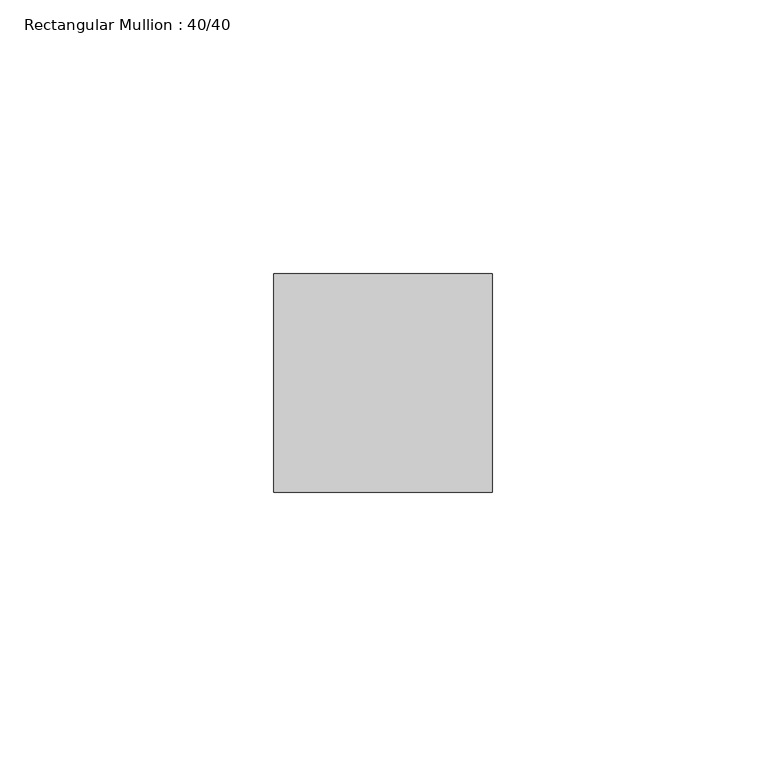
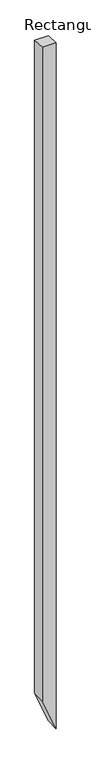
"""IFC4 building model written with IfcOpenShell, lengths in millimetres: member geometry, Rectangular Mullion : 40/40."""

from ifc_helpers import new_model, si_unit, origin, place, context, project, spatial, faceted_brep, source, transform, mapped, element, save


def rectangular_mullion_40_40_db6aeea2(model_context):
    return source(origin(), model_context, "Body", "Brep", [
        faceted_brep([(-20.0, 20.0, -1.3985362), (20.0, 20.0, -1.3985362), (20.0, 20.0, -2122.9057265), (-20.0, 20.0, -2023.6016951), (-20.0, -20.0, 1.3985362), (-20.0, -20.0, -2023.6016951), (20.0, -20.0, 1.3985362), (20.0, -20.0, -2122.9057265)], [[[0, 1, 2, 3]], [[4, 0, 3, 5]], [[6, 4, 5, 7]], [[1, 6, 7, 2]], [[1, 0, 4, 6]], [[2, 7, 5, 3]]]),
    ])


if __name__ == "__main__":
    model = new_model("IFC4")
    model_context = context("Model", 3, world=origin())
    ifc_project = project(units=[si_unit("LENGTHUNIT", "METRE", prefix="MILLI")], contexts=[model_context])
    site = spatial("IfcSite", under=ifc_project)
    building = spatial("IfcBuilding", under=site)
    placement = place(None, origin())
    rectangular_mullion_40_40_shape = rectangular_mullion_40_40_db6aeea2(model_context)
    element("IfcMember", 1, ObjectType="Rectangular Mullion : 40/40", at=placement, inside=building, context=model_context, shape_type="MappedRepresentation", body=[
        mapped(rectangular_mullion_40_40_shape, transform((0.0, 0.0, 0.0), x_axis=(1.0, 0.0, 0.0), y_axis=(0.0, 1.0, 0.0), z_axis=(0.0, 0.0, 1.0))),
    ])
    save(model, "model.ifc")
